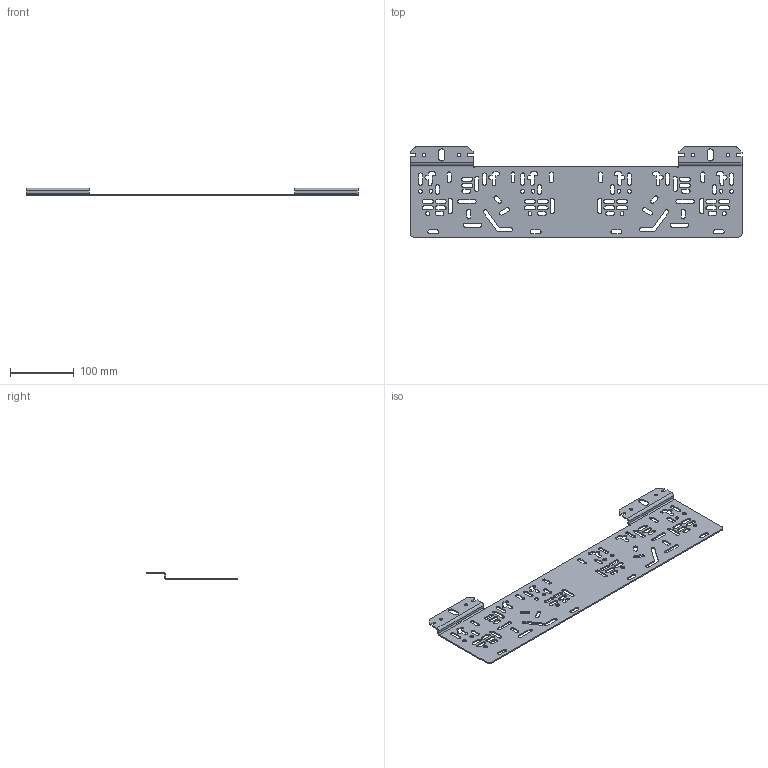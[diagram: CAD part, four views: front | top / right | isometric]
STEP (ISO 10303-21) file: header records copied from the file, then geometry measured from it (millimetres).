
FILE_DESCRIPTION(/* description */ (''),/* implementation_level */ '2;1');
FILE_NAME(/* name */ 'C:/Users/schwa/OneDrive - LED-MARTIN GmbH/eCommerce/Produktdetails/3D_Daten/SUMBEX/Crossway_Haltersatz_2022.step',/* time_stamp */ '2022-01-10T13:58:58+01:00',/* author */ (''),/* organization */ (''),/* preprocessor_version */ 'ST-DEVELOPER v18.1',/* originating_system */ 'Autodesk Translation Framework v10.10.0.1391',/* authorisation */ '');
FILE_SCHEMA (('AUTOMOTIVE_DESIGN { 1 0 10303 214 3 1 1 }'));
Length unit declared in the file: millimetre
Products named in the file (1): CROSSWAY_Haltersatz
Bounding box: 520 x 141 x 12 mm (x, y, z)
Volume: 111522.2 mm3; surface area: 121810.3 mm2
Topology: 1 solids, 1 shells, 423 faces, 1231 edges, 810 vertices
Faces by surface type: plane 230, cylinder 193
Full cylindrical faces by diameter (mm): 5 x4, 6 x12
Entity records: 14385 total; most frequent: DIRECTION 2465, CARTESIAN_POINT 2465, ORIENTED_EDGE 2462, EDGE_CURVE 1231, LINE 845, VECTOR 845, VERTEX_POINT 810, AXIS2_PLACEMENT_3D 810
